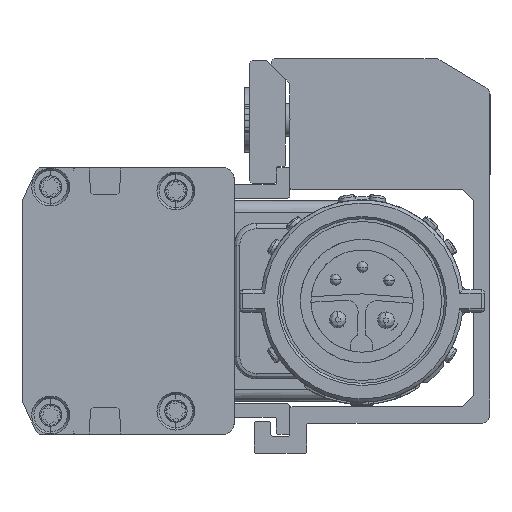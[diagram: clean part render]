
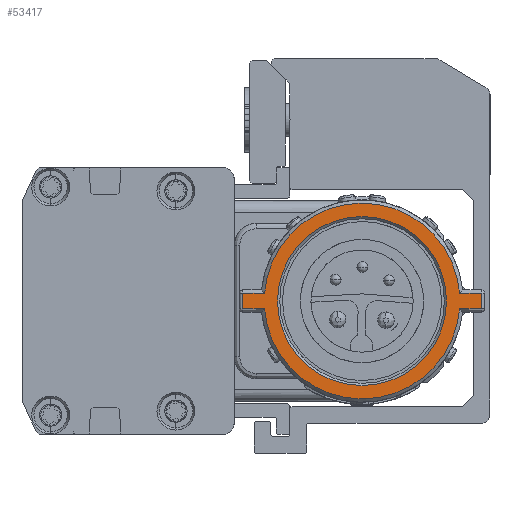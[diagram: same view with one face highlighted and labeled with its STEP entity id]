
A CAD part, left-side view. The second image highlights one B-rep face of the part: STEP entity #53417.
In plain terms, the highlighted planar face has unit normal (-1, 0, 0).
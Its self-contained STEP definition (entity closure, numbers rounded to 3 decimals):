
#826 = VERTEX_POINT ( 'NONE', #73769 ) ;
#1509 = EDGE_CURVE ( 'NONE', #42214, #51722, #35430, .T. ) ;
#1703 = CIRCLE ( 'NONE', #30863, 8.8 ) ;
#2455 = EDGE_CURVE ( 'NONE', #59302, #72303, #71733, .T. ) ;
#3307 = DIRECTION ( 'NONE',  ( 1., 0., 0. ) ) ;
#5117 = AXIS2_PLACEMENT_3D ( 'NONE', #63431, #45226, #45592 ) ;
#5629 = EDGE_CURVE ( 'NONE', #51722, #826, #9756, .T. ) ;
#6823 = FACE_BOUND ( 'NONE', #43228, .T. ) ;
#9756 = LINE ( 'NONE', #62594, #60100 ) ;
#10045 = EDGE_CURVE ( 'NONE', #43598, #56669, #38874, .T. ) ;
#10516 = ORIENTED_EDGE ( 'NONE', *, *, #23208, .F. ) ;
#11790 = PLANE ( 'NONE',  #60789 ) ;
#12642 = CARTESIAN_POINT ( 'NONE',  ( 0., 8.777, -0.7 ) ) ;
#12829 = CARTESIAN_POINT ( 'NONE',  ( 0., 10.75, 0.7 ) ) ;
#14418 = CARTESIAN_POINT ( 'NONE',  ( 0., 0.005, 0. ) ) ;
#15505 = DIRECTION ( 'NONE',  ( 0., 0., -1. ) ) ;
#16913 = CARTESIAN_POINT ( 'NONE',  ( 0., -3.795, 6.582 ) ) ;
#17592 = LINE ( 'NONE', #12642, #60740 ) ;
#21368 = CARTESIAN_POINT ( 'NONE',  ( 0., 8.777, 0.7 ) ) ;
#23208 = EDGE_CURVE ( 'NONE', #56669, #55473, #26473, .T. ) ;
#23551 = DIRECTION ( 'NONE',  ( 0., -1., 0. ) ) ;
#26473 = LINE ( 'NONE', #49671, #31852 ) ;
#30863 = AXIS2_PLACEMENT_3D ( 'NONE', #14418, #3307, #49724 ) ;
#30995 = VECTOR ( 'NONE', #73115, 1000. ) ;
#31041 = LINE ( 'NONE', #38605, #40309 ) ;
#31852 = VECTOR ( 'NONE', #62186, 1000. ) ;
#32276 = AXIS2_PLACEMENT_3D ( 'NONE', #43813, #39649, #73483 ) ;
#33095 = ORIENTED_EDGE ( 'NONE', *, *, #75030, .F. ) ;
#33547 = ORIENTED_EDGE ( 'NONE', *, *, #10045, .F. ) ;
#34712 = CIRCLE ( 'NONE', #32276, 8.8 ) ;
#35430 = LINE ( 'NONE', #41913, #40318 ) ;
#36463 = ORIENTED_EDGE ( 'NONE', *, *, #43846, .F. ) ;
#38605 = CARTESIAN_POINT ( 'NONE',  ( 0., -10.74, -0.7 ) ) ;
#38874 = LINE ( 'NONE', #39257, #30995 ) ;
#38896 = CARTESIAN_POINT ( 'NONE',  ( 0., -10.74, 0.7 ) ) ;
#38945 = AXIS2_PLACEMENT_3D ( 'NONE', #62475, #44989, #50702 ) ;
#39257 = CARTESIAN_POINT ( 'NONE',  ( 0., 10.75, -0.7 ) ) ;
#39420 = CARTESIAN_POINT ( 'NONE',  ( 0., 8.777, -0.7 ) ) ;
#39649 = DIRECTION ( 'NONE',  ( 1., 0., 0. ) ) ;
#40309 = VECTOR ( 'NONE', #67126, 1000. ) ;
#40318 = VECTOR ( 'NONE', #59003, 1000. ) ;
#41913 = CARTESIAN_POINT ( 'NONE',  ( 0., -8.767, 0.7 ) ) ;
#42214 = VERTEX_POINT ( 'NONE', #55049 ) ;
#43228 = EDGE_LOOP ( 'NONE', ( #47823, #56661 ) ) ;
#43598 = VERTEX_POINT ( 'NONE', #68810 ) ;
#43813 = CARTESIAN_POINT ( 'NONE',  ( 0., 0.005, 0. ) ) ;
#43846 = EDGE_CURVE ( 'NONE', #55473, #42214, #1703, .T. ) ;
#44551 = VERTEX_POINT ( 'NONE', #39420 ) ;
#44989 = DIRECTION ( 'NONE',  ( -1., 0., 0. ) ) ;
#45226 = DIRECTION ( 'NONE',  ( -1., 0., 0. ) ) ;
#45592 = DIRECTION ( 'NONE',  ( 0., 0.5, -0.866 ) ) ;
#46326 = EDGE_CURVE ( 'NONE', #52237, #44551, #34712, .T. ) ;
#47500 = CARTESIAN_POINT ( 'NONE',  ( 0., 0.005, 0. ) ) ;
#47823 = ORIENTED_EDGE ( 'NONE', *, *, #2455, .F. ) ;
#49671 = CARTESIAN_POINT ( 'NONE',  ( 0., 10.75, 0.7 ) ) ;
#49724 = DIRECTION ( 'NONE',  ( 0., -0.5, 0.866 ) ) ;
#49778 = EDGE_CURVE ( 'NONE', #72303, #59302, #68264, .T. ) ;
#50702 = DIRECTION ( 'NONE',  ( 0., -0.5, 0.866 ) ) ;
#51722 = VERTEX_POINT ( 'NONE', #38896 ) ;
#52140 = DIRECTION ( 'NONE',  ( 0., 1., 0. ) ) ;
#52237 = VERTEX_POINT ( 'NONE', #63859 ) ;
#53417 = ADVANCED_FACE ( 'NONE', ( #6823, #69557 ), #11790, .F. ) ;
#55049 = CARTESIAN_POINT ( 'NONE',  ( 0., -8.767, 0.7 ) ) ;
#55473 = VERTEX_POINT ( 'NONE', #21368 ) ;
#56661 = ORIENTED_EDGE ( 'NONE', *, *, #49778, .F. ) ;
#56669 = VERTEX_POINT ( 'NONE', #12829 ) ;
#58384 = EDGE_LOOP ( 'NONE', ( #36463, #10516, #33547, #59862, #72576, #33095, #58919, #58581 ) ) ;
#58538 = DIRECTION ( 'NONE',  ( 1., 0., 0. ) ) ;
#58581 = ORIENTED_EDGE ( 'NONE', *, *, #1509, .F. ) ;
#58919 = ORIENTED_EDGE ( 'NONE', *, *, #5629, .F. ) ;
#59003 = DIRECTION ( 'NONE',  ( 0., -1., 0. ) ) ;
#59302 = VERTEX_POINT ( 'NONE', #16913 ) ;
#59862 = ORIENTED_EDGE ( 'NONE', *, *, #61754, .F. ) ;
#60100 = VECTOR ( 'NONE', #15505, 1000. ) ;
#60740 = VECTOR ( 'NONE', #52140, 1000. ) ;
#60789 = AXIS2_PLACEMENT_3D ( 'NONE', #47500, #58538, #23551 ) ;
#61754 = EDGE_CURVE ( 'NONE', #44551, #43598, #17592, .T. ) ;
#62186 = DIRECTION ( 'NONE',  ( 0., -1., 0. ) ) ;
#62475 = CARTESIAN_POINT ( 'NONE',  ( 0., 0.005, 0. ) ) ;
#62594 = CARTESIAN_POINT ( 'NONE',  ( 0., -10.74, 0.7 ) ) ;
#63431 = CARTESIAN_POINT ( 'NONE',  ( 0., 0.005, 0. ) ) ;
#63859 = CARTESIAN_POINT ( 'NONE',  ( 0., -8.767, -0.7 ) ) ;
#67126 = DIRECTION ( 'NONE',  ( 0., 1., 0. ) ) ;
#68264 = CIRCLE ( 'NONE', #5117, 7.6 ) ;
#68810 = CARTESIAN_POINT ( 'NONE',  ( 0., 10.75, -0.7 ) ) ;
#69557 = FACE_OUTER_BOUND ( 'NONE', #58384, .T. ) ;
#70591 = CARTESIAN_POINT ( 'NONE',  ( 0., 3.805, -6.582 ) ) ;
#71733 = CIRCLE ( 'NONE', #38945, 7.6 ) ;
#72303 = VERTEX_POINT ( 'NONE', #70591 ) ;
#72576 = ORIENTED_EDGE ( 'NONE', *, *, #46326, .F. ) ;
#73115 = DIRECTION ( 'NONE',  ( 0., 0., 1. ) ) ;
#73483 = DIRECTION ( 'NONE',  ( 0., 0.5, -0.866 ) ) ;
#73769 = CARTESIAN_POINT ( 'NONE',  ( 0., -10.74, -0.7 ) ) ;
#75030 = EDGE_CURVE ( 'NONE', #826, #52237, #31041, .T. ) ;
